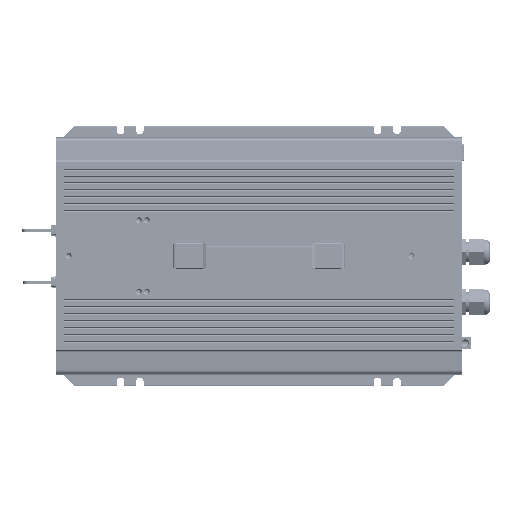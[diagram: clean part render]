
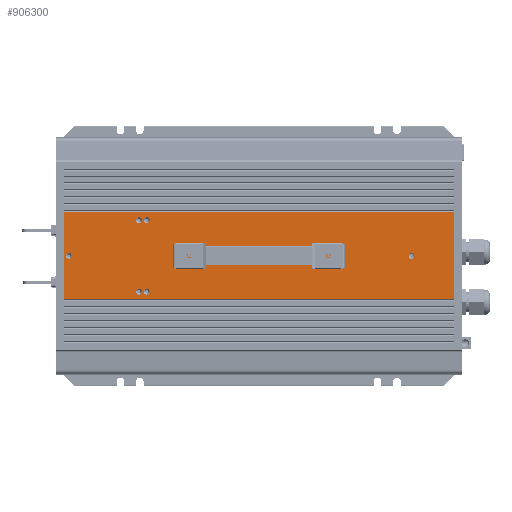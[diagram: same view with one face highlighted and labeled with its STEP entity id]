
A CAD part, top view. The second image highlights one B-rep face of the part: STEP entity #906300.
In plain terms, the highlighted planar face has unit normal (0, 0, 1) as drawn and (0, 1, 0) by its records, which use the part's own axes.
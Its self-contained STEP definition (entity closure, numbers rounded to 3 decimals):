
#885900=CARTESIAN_POINT('',(2078.449,98.104,-63.1));
#885910=VERTEX_POINT('',#885900);
#885940=CARTESIAN_POINT('',(2078.449,98.104,-63.1));
#885950=DIRECTION('',(-1.,0.,0.));
#885960=VECTOR('',#885950,1.);
#885970=LINE('',#885940,#885960);
#885980=CARTESIAN_POINT('',(1988.299,98.104,-63.1));
#885990=VERTEX_POINT('',#885980);
#886000=EDGE_CURVE('',#885910,#885990,#885970,.T.);
#894790=CARTESIAN_POINT('',(1988.299,98.104,340.9));
#894800=VERTEX_POINT('',#894790);
#894830=CARTESIAN_POINT('',(1988.299,98.104,340.9));
#894840=DIRECTION('',(1.,0.,0.));
#894850=VECTOR('',#894840,1.);
#894860=LINE('',#894830,#894850);
#894870=CARTESIAN_POINT('',(2078.449,98.104,340.9));
#894880=VERTEX_POINT('',#894870);
#894890=EDGE_CURVE('',#894800,#894880,#894860,.T.);
#904350=CARTESIAN_POINT('',(1996.284,98.104,14.949)
);
#904360=DIRECTION('',(0.,-1.,-0.));
#904370=DIRECTION('',(-0.257,0.,-0.966));
#904380=AXIS2_PLACEMENT_3D('',#904350,#904360,#904370);
#904390=CIRCLE('',#904380,3.);
#904400=CARTESIAN_POINT('',(1995.513,98.104,12.05)
);
#904410=VERTEX_POINT('',#904400);
#904420=CARTESIAN_POINT('',(1999.284,98.104,14.949)
);
#904430=VERTEX_POINT('',#904420);
#904440=EDGE_CURVE('',#904410,#904430,#904390,.T.);
#904580=CARTESIAN_POINT('',(1993.284,98.104,14.949)
);
#904590=VERTEX_POINT('',#904580);
#904620=EDGE_CURVE('',#904590,#904410,#904390,.T.);
#904980=CARTESIAN_POINT('',(2028.721,98.104,122.9));
#904990=DIRECTION('',(0.,-1.,0.));
#905000=DIRECTION('',(1.,0.,0.));
#905010=AXIS2_PLACEMENT_3D('',#904980,#904990,#905000);
#905020=PLANE('',#905010);
#905030=ORIENTED_EDGE('',*,*,#886000,.T.);
#905040=CARTESIAN_POINT('',(2078.449,98.104,340.9));
#905050=DIRECTION('',(0.,0.,-1.));
#905060=VECTOR('',#905050,1.);
#905070=LINE('',#905040,#905060);
#905080=EDGE_CURVE('',#894880,#885910,#905070,.T.);
#905090=ORIENTED_EDGE('',*,*,#905080,.T.);
#905100=ORIENTED_EDGE('',*,*,#894890,.T.);
#905110=CARTESIAN_POINT('',(1988.299,98.104,-63.1));
#905120=DIRECTION('',(0.,0.,1.));
#905130=VECTOR('',#905120,1.);
#905140=LINE('',#905110,#905130);
#905150=EDGE_CURVE('',#885990,#894800,#905140,.T.);
#905160=ORIENTED_EDGE('',*,*,#905150,.T.);
#905170=EDGE_LOOP('',(#905160,#905100,#905090,#905030));
#905180=FACE_OUTER_BOUND('',#905170,.T.);
#905190=CARTESIAN_POINT('',(2033.376,98.104,210.9));
#905200=DIRECTION('',(0.,-1.,0.));
#905210=DIRECTION('',(0.,0.,1.));
#905220=AXIS2_PLACEMENT_3D('',#905190,#905200,#905210);
#905230=CIRCLE('',#905220,1.6);
#905240=CARTESIAN_POINT('',(2033.376,98.104,212.5));
#905250=VERTEX_POINT('',#905240);
#905260=CARTESIAN_POINT('',(2033.376,98.104,209.3));
#905270=VERTEX_POINT('',#905260);
#905280=EDGE_CURVE('',#905250,#905270,#905230,.T.);
#905290=ORIENTED_EDGE('',*,*,#905280,.T.);
#905300=EDGE_CURVE('',#905270,#905250,#905230,.T.);
#905310=ORIENTED_EDGE('',*,*,#905300,.T.);
#905320=EDGE_LOOP('',(#905310,#905290));
#905330=FACE_BOUND('',#905320,.T.);
#905340=CARTESIAN_POINT('',(1996.284,98.104,22.949)
);
#905350=DIRECTION('',(0.,-1.,-0.));
#905360=DIRECTION('',(0.,0.,-1.));
#905370=AXIS2_PLACEMENT_3D('',#905340,#905350,#905360);
#905380=CIRCLE('',#905370,3.);
#905390=CARTESIAN_POINT('',(1999.284,98.104,22.949)
);
#905400=VERTEX_POINT('',#905390);
#905410=CARTESIAN_POINT('',(1993.284,98.104,22.949)
);
#905420=VERTEX_POINT('',#905410);
#905430=EDGE_CURVE('',#905400,#905420,#905380,.T.);
#905440=ORIENTED_EDGE('',*,*,#905430,.T.);
#905450=EDGE_CURVE('',#905420,#905400,#905380,.T.);
#905460=ORIENTED_EDGE('',*,*,#905450,.T.);
#905470=EDGE_LOOP('',(#905460,#905440));
#905480=FACE_BOUND('',#905470,.T.);
#905490=CARTESIAN_POINT('',(2033.374,98.104,296.9));
#905500=DIRECTION('',(0.,-1.,0.));
#905510=DIRECTION('',(1.,0.,0.));
#905520=AXIS2_PLACEMENT_3D('',#905490,#905500,#905510);
#905530=CIRCLE('',#905520,3.);
#905540=CARTESIAN_POINT('',(2030.374,98.104,296.9));
#905550=VERTEX_POINT('',#905540);
#905560=CARTESIAN_POINT('',(2036.374,98.104,296.9));
#905570=VERTEX_POINT('',#905560);
#905580=EDGE_CURVE('',#905550,#905570,#905530,.T.);
#905590=ORIENTED_EDGE('',*,*,#905580,.T.);
#905600=EDGE_CURVE('',#905570,#905550,#905530,.T.);
#905610=ORIENTED_EDGE('',*,*,#905600,.T.);
#905620=EDGE_LOOP('',(#905610,#905590));
#905630=FACE_BOUND('',#905620,.T.);
#905640=CARTESIAN_POINT('',(2033.376,98.104,
-57.6));
#905650=DIRECTION('',(0.,-1.,0.));
#905660=DIRECTION('',(1.,0.,0.));
#905670=AXIS2_PLACEMENT_3D('',#905640,#905650,#905660);
#905680=CIRCLE('',#905670,3.);
#905690=CARTESIAN_POINT('',(2030.376,98.104,
-57.6));
#905700=VERTEX_POINT('',#905690);
#905710=CARTESIAN_POINT('',(2036.376,98.104,
-57.6));
#905720=VERTEX_POINT('',#905710);
#905730=EDGE_CURVE('',#905700,#905720,#905680,.T.);
#905740=ORIENTED_EDGE('',*,*,#905730,.T.);
#905750=EDGE_CURVE('',#905720,#905700,#905680,.T.);
#905760=ORIENTED_EDGE('',*,*,#905750,.T.);
#905770=EDGE_LOOP('',(#905760,#905740));
#905780=FACE_BOUND('',#905770,.T.);
#905790=CARTESIAN_POINT('',(2070.318,98.104,14.949));
#905800=DIRECTION('',(0.,-1.,-0.));
#905810=DIRECTION('',(1.,0.,0.));
#905820=AXIS2_PLACEMENT_3D('',#905790,#905800,#905810);
#905830=CIRCLE('',#905820,3.);
#905840=CARTESIAN_POINT('',(2067.318,98.104,14.949));
#905850=VERTEX_POINT('',#905840);
#905860=CARTESIAN_POINT('',(2073.318,98.104,14.949));
#905870=VERTEX_POINT('',#905860);
#905880=EDGE_CURVE('',#905850,#905870,#905830,.T.);
#905890=ORIENTED_EDGE('',*,*,#905880,.T.);
#905900=EDGE_CURVE('',#905870,#905850,#905830,.T.);
#905910=ORIENTED_EDGE('',*,*,#905900,.T.);
#905920=EDGE_LOOP('',(#905910,#905890));
#905930=FACE_BOUND('',#905920,.T.);
#905940=EDGE_CURVE('',#904430,#904590,#904390,.T.);
#905950=ORIENTED_EDGE('',*,*,#905940,.T.);
#905960=ORIENTED_EDGE('',*,*,#904440,.T.);
#905970=ORIENTED_EDGE('',*,*,#904620,.T.);
#905980=EDGE_LOOP('',(#905970,#905960,#905950));
#905990=FACE_BOUND('',#905980,.T.);
#906000=CARTESIAN_POINT('',(2070.318,98.104,22.949));
#906010=DIRECTION('',(0.,-1.,0.));
#906020=DIRECTION('',(1.,0.,0.));
#906030=AXIS2_PLACEMENT_3D('',#906000,#906010,#906020);
#906040=CIRCLE('',#906030,3.);
#906050=CARTESIAN_POINT('',(2067.318,98.104,22.949));
#906060=VERTEX_POINT('',#906050);
#906070=CARTESIAN_POINT('',(2073.318,98.104,22.949));
#906080=VERTEX_POINT('',#906070);
#906090=EDGE_CURVE('',#906060,#906080,#906040,.T.);
#906100=ORIENTED_EDGE('',*,*,#906090,.T.);
#906110=EDGE_CURVE('',#906080,#906060,#906040,.T.);
#906120=ORIENTED_EDGE('',*,*,#906110,.T.);
#906130=EDGE_LOOP('',(#906120,#906100));
#906140=FACE_BOUND('',#906130,.T.);
#906150=CARTESIAN_POINT('',(2033.376,98.104,66.9));
#906160=DIRECTION('',(0.,-1.,0.));
#906170=DIRECTION('',(0.,0.,1.));
#906180=AXIS2_PLACEMENT_3D('',#906150,#906160,#906170);
#906190=CIRCLE('',#906180,1.6);
#906200=CARTESIAN_POINT('',(2033.376,98.104,68.5));
#906210=VERTEX_POINT('',#906200);
#906220=CARTESIAN_POINT('',(2033.376,98.104,65.3));
#906230=VERTEX_POINT('',#906220);
#906240=EDGE_CURVE('',#906210,#906230,#906190,.T.);
#906250=ORIENTED_EDGE('',*,*,#906240,.T.);
#906260=EDGE_CURVE('',#906230,#906210,#906190,.T.);
#906270=ORIENTED_EDGE('',*,*,#906260,.T.);
#906280=EDGE_LOOP('',(#906270,#906250));
#906290=FACE_BOUND('',#906280,.T.);
#906300=ADVANCED_FACE('',(#905180,#905330,#905480,#905630,#905780,
#905930,#905990,#906140,#906290),#905020,.F.);
